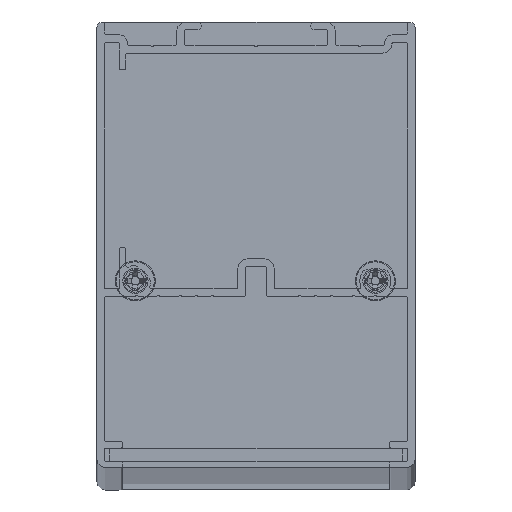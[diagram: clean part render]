
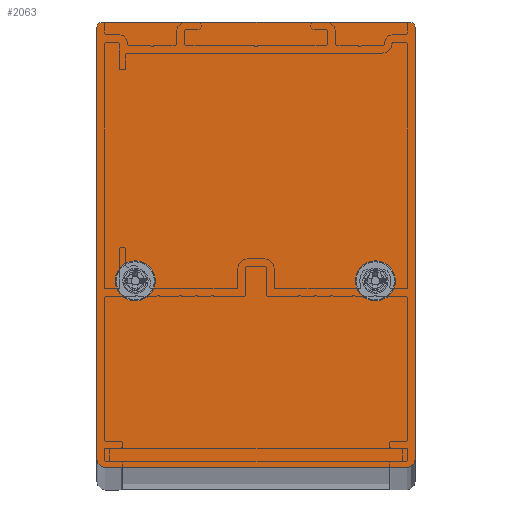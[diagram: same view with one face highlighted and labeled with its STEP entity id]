
A CAD part, top view. The second image highlights one B-rep face of the part: STEP entity #2063.
In plain terms, the highlighted planar face has unit normal (0, 0, 1).
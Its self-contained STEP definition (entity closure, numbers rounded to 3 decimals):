
#2063=ADVANCED_FACE('',(#3819,#3821,#3823),#3825,.T.);
#3819=FACE_BOUND('',#3820,.T.);
#3820=EDGE_LOOP('',(#5632,#5633,#5634,#5635,#5636,#5637,#5638,#5639));
#3821=FACE_BOUND('',#3822,.T.);
#3822=EDGE_LOOP('',(#5640));
#3823=FACE_BOUND('',#3824,.T.);
#3824=EDGE_LOOP('',(#5641));
#3825=PLANE('',#3826);
#3826=AXIS2_PLACEMENT_3D('',#3827,#3828,#3829);
#3827=CARTESIAN_POINT('',(0.,0.,1001.));
#3828=DIRECTION('',(0.,0.,1.));
#3829=DIRECTION('',(1.,0.,0.));
#5632=ORIENTED_EDGE('',*,*,#6478,.T.);
#5633=ORIENTED_EDGE('',*,*,#6479,.T.);
#5634=ORIENTED_EDGE('',*,*,#6480,.T.);
#5635=ORIENTED_EDGE('',*,*,#6481,.T.);
#5636=ORIENTED_EDGE('',*,*,#6482,.T.);
#5637=ORIENTED_EDGE('',*,*,#6483,.T.);
#5638=ORIENTED_EDGE('',*,*,#6484,.T.);
#5639=ORIENTED_EDGE('',*,*,#6485,.T.);
#5640=ORIENTED_EDGE('',*,*,#6486,.T.);
#5641=ORIENTED_EDGE('',*,*,#6487,.T.);
#6478=EDGE_CURVE('',#7607,#7608,#7609,.T.);
#6479=EDGE_CURVE('',#7608,#7610,#7611,.T.);
#6480=EDGE_CURVE('',#7610,#7612,#7613,.T.);
#6481=EDGE_CURVE('',#7612,#7614,#7615,.T.);
#6482=EDGE_CURVE('',#7614,#7616,#7617,.T.);
#6483=EDGE_CURVE('',#7616,#7618,#7619,.T.);
#6484=EDGE_CURVE('',#7618,#7620,#7621,.T.);
#6485=EDGE_CURVE('',#7620,#7607,#7622,.T.);
#6486=EDGE_CURVE('',#7623,#7623,#7624,.F.);
#6487=EDGE_CURVE('',#7625,#7625,#7626,.F.);
#7607=VERTEX_POINT('',#10327);
#7608=VERTEX_POINT('',#10328);
#7609=LINE('',#10329,#10330);
#7610=VERTEX_POINT('',#10332);
#7611=CIRCLE('',#10333,0.9);
#7612=VERTEX_POINT('',#10337);
#7613=LINE('',#10338,#10339);
#7614=VERTEX_POINT('',#10341);
#7615=CIRCLE('',#10342,0.9);
#7616=VERTEX_POINT('',#10346);
#7617=LINE('',#10347,#10348);
#7618=VERTEX_POINT('',#10350);
#7619=CIRCLE('',#10351,1.35);
#7620=VERTEX_POINT('',#10355);
#7621=LINE('',#10356,#10357);
#7622=CIRCLE('',#10359,1.35);
#7623=VERTEX_POINT('',#10363);
#7624=CIRCLE('',#10364,3.);
#7625=VERTEX_POINT('',#10368);
#7626=CIRCLE('',#10369,3.);
#10327=CARTESIAN_POINT('',(25.,-63.75,1001.));
#10328=CARTESIAN_POINT('',(25.,4.,1001.));
#10329=CARTESIAN_POINT('',(25.,-63.75,1001.));
#10330=VECTOR('',#10331,1.);
#10331=DIRECTION('',(0.,1.,0.));
#10332=CARTESIAN_POINT('',(24.1,4.9,1001.));
#10333=AXIS2_PLACEMENT_3D('',#10334,#10335,#10336);
#10334=CARTESIAN_POINT('',(24.1,4.,1001.));
#10335=DIRECTION('',(-0.,0.,1.));
#10336=DIRECTION('',(1.,0.,0.));
#10337=CARTESIAN_POINT('',(-24.1,4.9,1001.));
#10338=CARTESIAN_POINT('',(24.1,4.9,1001.));
#10339=VECTOR('',#10340,1.);
#10340=DIRECTION('',(-1.,0.,0.));
#10341=CARTESIAN_POINT('',(-25.,4.,1001.));
#10342=AXIS2_PLACEMENT_3D('',#10343,#10344,#10345);
#10343=CARTESIAN_POINT('',(-24.1,4.,1001.));
#10344=DIRECTION('',(0.,0.,1.));
#10345=DIRECTION('',(0.,1.,0.));
#10346=CARTESIAN_POINT('',(-25.,-63.75,1001.));
#10347=CARTESIAN_POINT('',(-25.,4.,1001.));
#10348=VECTOR('',#10349,1.);
#10349=DIRECTION('',(0.,-1.,0.));
#10350=CARTESIAN_POINT('',(-23.65,-65.1,1001.));
#10351=AXIS2_PLACEMENT_3D('',#10352,#10353,#10354);
#10352=CARTESIAN_POINT('',(-23.65,-63.75,1001.));
#10353=DIRECTION('',(0.,0.,1.));
#10354=DIRECTION('',(-1.,0.,0.));
#10355=CARTESIAN_POINT('',(23.65,-65.1,1001.));
#10356=CARTESIAN_POINT('',(-23.65,-65.1,1001.));
#10357=VECTOR('',#10358,1.);
#10358=DIRECTION('',(1.,0.,0.));
#10359=AXIS2_PLACEMENT_3D('',#10360,#10361,#10362);
#10360=CARTESIAN_POINT('',(23.65,-63.75,1001.));
#10361=DIRECTION('',(0.,-0.,1.));
#10362=DIRECTION('',(0.,-1.,0.));
#10363=CARTESIAN_POINT('',(21.749,-35.751,1001.));
#10364=AXIS2_PLACEMENT_3D('',#10365,#10366,#10367);
#10365=CARTESIAN_POINT('',(18.749,-35.751,1001.));
#10366=DIRECTION('',(0.,0.,1.));
#10367=DIRECTION('',(1.,0.,0.));
#10368=CARTESIAN_POINT('',(-15.956,-35.747,1001.));
#10369=AXIS2_PLACEMENT_3D('',#10370,#10371,#10372);
#10370=CARTESIAN_POINT('',(-18.956,-35.747,1001.));
#10371=DIRECTION('',(0.,0.,1.));
#10372=DIRECTION('',(1.,0.,0.));
